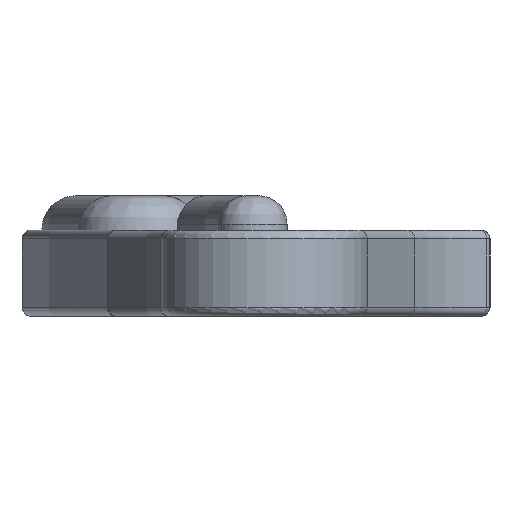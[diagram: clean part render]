
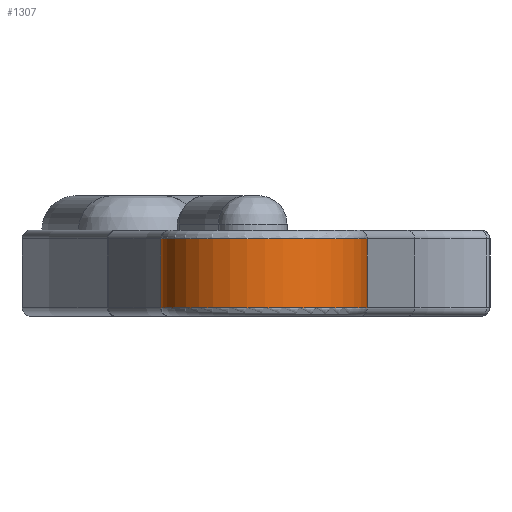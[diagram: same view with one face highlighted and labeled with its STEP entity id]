
A CAD part, left-side view. The second image highlights one B-rep face of the part: STEP entity #1307.
In plain terms, the highlighted cylindrical face has radius 6 mm (diameter 12 mm), a partial arc.
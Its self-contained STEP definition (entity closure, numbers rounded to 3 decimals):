
#81=CYLINDRICAL_SURFACE('',#1529,6.);
#149=LINE('',#2408,#203);
#150=LINE('',#2410,#204);
#203=VECTOR('',#1981,10.);
#204=VECTOR('',#1984,10.);
#292=FACE_OUTER_BOUND('',#396,.T.);
#396=EDGE_LOOP('',(#1140,#1141,#1142,#1143));
#462=CIRCLE('',#1411,6.);
#521=CIRCLE('',#1506,6.);
#596=VERTEX_POINT('',#2190);
#598=VERTEX_POINT('',#2209);
#633=VERTEX_POINT('',#2352);
#634=VERTEX_POINT('',#2353);
#716=EDGE_CURVE('',#598,#596,#462,.T.);
#787=EDGE_CURVE('',#633,#634,#521,.T.);
#809=EDGE_CURVE('',#634,#598,#149,.T.);
#810=EDGE_CURVE('',#633,#596,#150,.T.);
#1140=ORIENTED_EDGE('',*,*,#716,.F.);
#1141=ORIENTED_EDGE('',*,*,#809,.F.);
#1142=ORIENTED_EDGE('',*,*,#787,.F.);
#1143=ORIENTED_EDGE('',*,*,#810,.T.);
#1307=ADVANCED_FACE('',(#292),#81,.T.);
#1411=AXIS2_PLACEMENT_3D('',#2211,#1717,#1718);
#1506=AXIS2_PLACEMENT_3D('',#2354,#1919,#1920);
#1529=AXIS2_PLACEMENT_3D('',#2409,#1982,#1983);
#1717=DIRECTION('center_axis',(0.,0.,1.));
#1718=DIRECTION('ref_axis',(-0.816,-0.577,0.));
#1919=DIRECTION('center_axis',(0.,0.,-1.));
#1920=DIRECTION('ref_axis',(-0.816,-0.577,0.));
#1981=DIRECTION('',(0.,0.,1.));
#1982=DIRECTION('center_axis',(0.,0.,1.));
#1983=DIRECTION('ref_axis',(-0.816,-0.577,0.));
#1984=DIRECTION('',(0.,0.,1.));
#2190=CARTESIAN_POINT('',(131.093,-26.845,4.5));
#2209=CARTESIAN_POINT('',(125.376,-18.76,4.5));
#2211=CARTESIAN_POINT('Origin',(125.467,-24.759,4.5));
#2352=CARTESIAN_POINT('',(131.093,-26.845,0.5));
#2353=CARTESIAN_POINT('',(125.376,-18.76,0.5));
#2354=CARTESIAN_POINT('Origin',(125.467,-24.759,0.5));
#2408=CARTESIAN_POINT('',(125.376,-18.76,0.));
#2409=CARTESIAN_POINT('Origin',(125.467,-24.759,0.));
#2410=CARTESIAN_POINT('',(131.093,-26.845,0.));
